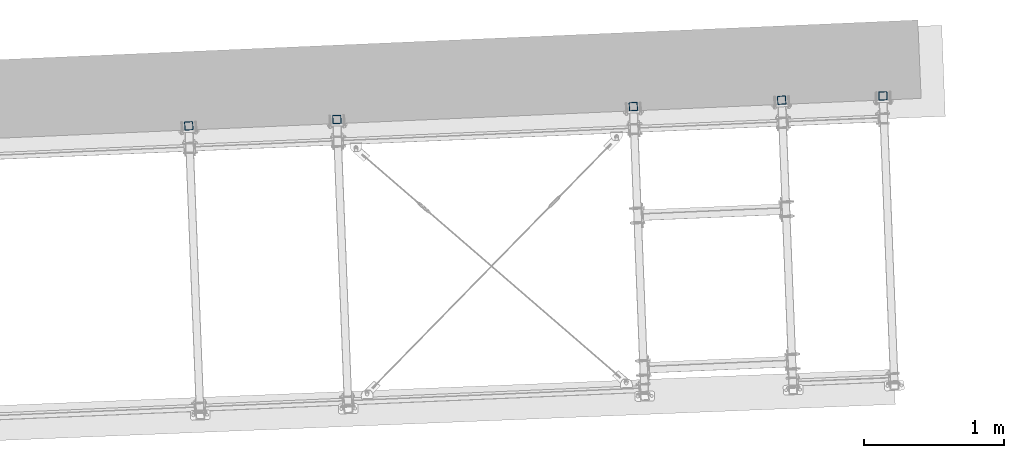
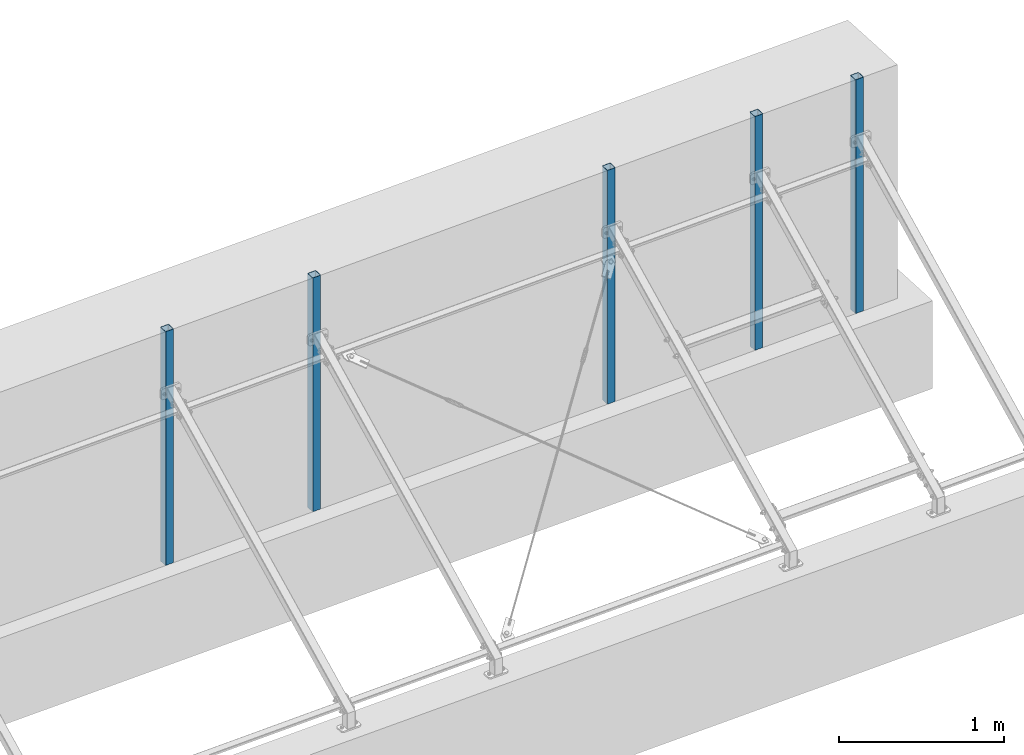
# One storey, part 5 of 288: 5 columns.
"""IFC2X3 building model written with IfcOpenShell, lengths in millimetres."""

from ifc_helpers import new_model, entity, si_unit, converted_unit, frame, origin, origin_with_axes, origin_2d, place, context, project, spatial, hollow_rectangle, extrude, material, element, save


model = new_model("IFC2X3")

# Units and contexts
model_context = context("Model", 3, precision=1e-09, world=origin_with_axes())
ifc_project = project(units=[si_unit("LENGTHUNIT", "METRE", prefix="MILLI"), si_unit("AREAUNIT", "SQUARE_METRE"), si_unit("VOLUMEUNIT", "CUBIC_METRE"), converted_unit("PLANEANGLEUNIT", "DEGREE", entity("IfcPlaneAngleMeasure", 0.01745329), si_unit("PLANEANGLEUNIT", "RADIAN"), dimensions=[0, 0, 0, 0, 0, 0, 0])], contexts=[model_context])

# Site, building, storey
site_placement = place(None, origin_with_axes())
site = spatial("IfcSite", under=ifc_project, at=site_placement, Name="Remont ?wietlik?w nad MC w NCPP w Opolu", CompositionType="ELEMENT")
building_placement = place(site_placement, origin_with_axes())
building = spatial("IfcBuilding", under=site, at=building_placement, Name="Konstrukcja 1", CompositionType="ELEMENT")
storey_placement = place(building_placement, origin_with_axes())
storey = spatial("IfcBuildingStorey", under=building, at=storey_placement, Name="Default Storey", CompositionType="ELEMENT", Elevation=0.0)

# Columns
ifc_material = material(Name="S235")
for number, where, z_axis, x_axis, name in (
    (1, (5522.558461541, 15819.540870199, 3.8e-08), (0.0, 0.0, 1.0), (0.039392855, -0.9992238, 0.0), "Horizontal_Beam"),
    (2, (6579.161453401, 15865.17447914, 3.8e-08), (0.0, 0.0, 1.0), (0.039392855, -0.9992238, 0.0), "Horizontal_Beam"),
    (3, (8694.515729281, 15956.534479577, 3.8e-08), (0.0, 0.0, 1.0), (0.039392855, -0.9992238, 0.0), "Horizontal_Beam"),
    (4, (9753.528178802, 16002.272150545, 3.8e-08), (0.0, 0.0, 1.0), (0.039392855, -0.9992238, 0.0), "Horizontal_Beam"),
    (5, (10476.353312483, 16033.490233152, 3.8e-08), (0.0, 0.0, 1.0), (0.039392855, -0.9992238, 0.0), "Horizontal_Beam"),
):
    element("IfcColumn", number, at=place(None, frame(where, z_axis=z_axis, x_axis=x_axis)), inside=storey, material=ifc_material, Name=name, ObjectType="Horizontal_Beam", context=model_context, shape_type="SweptSolid", body=[
        extrude(hollow_rectangle(XDim=60.0, YDim=60.0, WallThickness=3.0, InnerFilletRadius=3.0, OuterFilletRadius=6.0, at=origin_2d()), origin(), (0.0, 0.0, 1.0), 1729.999999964),
    ])

save(model, "model.ifc")
